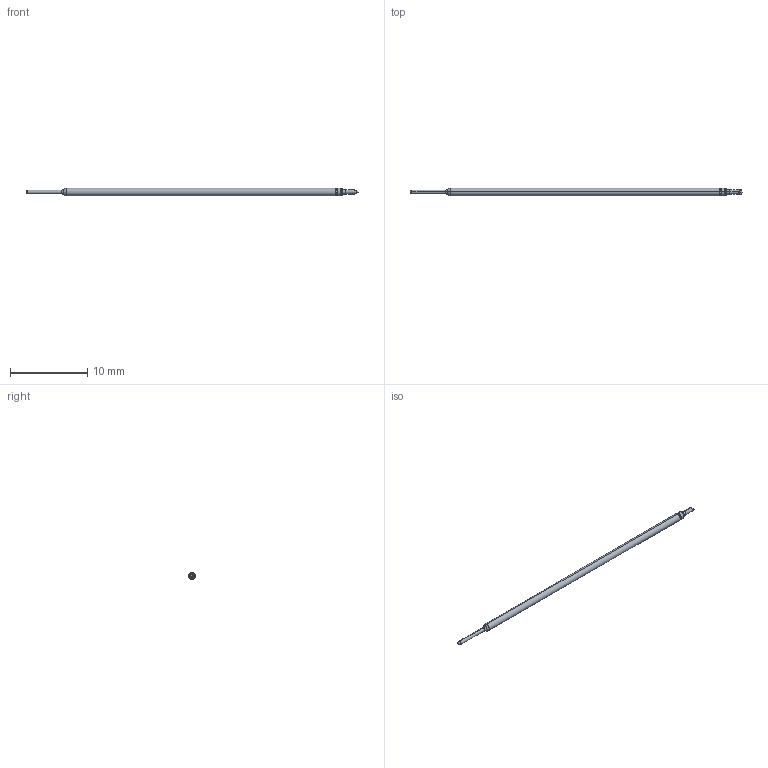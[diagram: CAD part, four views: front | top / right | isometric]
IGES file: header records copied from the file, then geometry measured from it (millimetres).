
Start section: SolidWorks IGES file using analytic representation for surfaces
Global section: file name: C:\Documents and Settings\mrumschlag\Desktop\changes\new\test\I15 FULL.IGS; native system: SolidWorks 2011; preprocessor: SolidWorks 2011; author: mrumschlag; date: 110630.142323; units: inch
Bounding box: 42.93 x 0.97 x 0.97 mm (x, y, z)
Surface area: 120.8 mm2 (no closed solid volume)
Topology: 0 solids, 0 shells, 35 faces, 200 edges, 198 vertices
Faces by surface type: revolution 22, bspline 13
